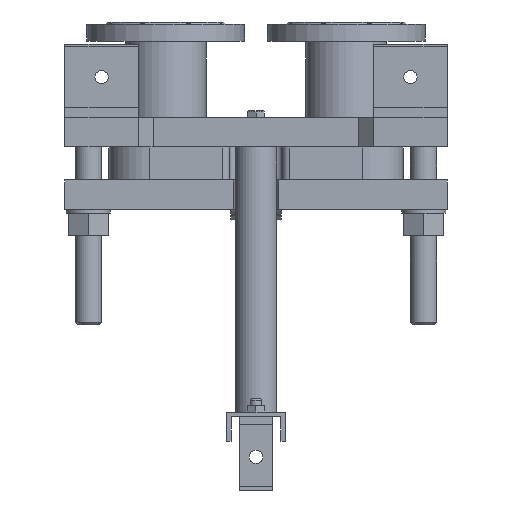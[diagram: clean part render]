
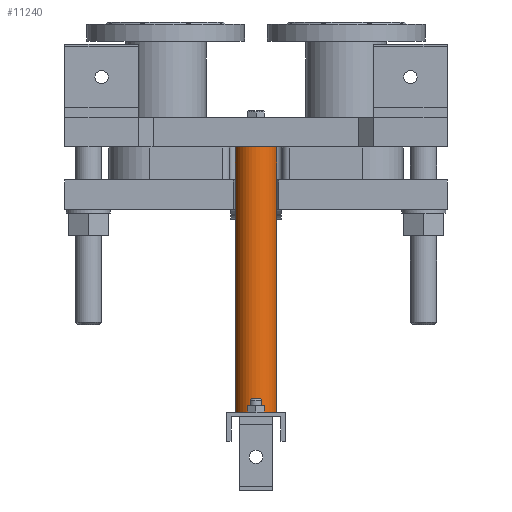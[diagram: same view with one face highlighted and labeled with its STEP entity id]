
A CAD part, front view. The second image highlights one B-rep face of the part: STEP entity #11240.
In plain terms, the highlighted cylindrical face has radius 28.5 mm (diameter 57 mm), a full revolution.
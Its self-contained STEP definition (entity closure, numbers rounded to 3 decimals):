
#781=LINE('',#22043,#1754);
#1754=VECTOR('',#14569,28.5);
#2333=CYLINDRICAL_SURFACE('',#12263,28.5);
#2995=FACE_OUTER_BOUND('',#3777,.T.);
#3777=EDGE_LOOP('',(#9013,#9014,#9015,#9016));
#4462=CIRCLE('',#12264,28.5);
#4463=CIRCLE('',#12265,28.5);
#5286=VERTEX_POINT('',#22040);
#5287=VERTEX_POINT('',#22042);
#6596=EDGE_CURVE('',#5286,#5286,#4462,.T.);
#6597=EDGE_CURVE('',#5286,#5287,#781,.T.);
#6598=EDGE_CURVE('',#5287,#5287,#4463,.T.);
#9013=ORIENTED_EDGE('',*,*,#6596,.F.);
#9014=ORIENTED_EDGE('',*,*,#6597,.T.);
#9015=ORIENTED_EDGE('',*,*,#6598,.T.);
#9016=ORIENTED_EDGE('',*,*,#6597,.F.);
#11240=ADVANCED_FACE('',(#2995),#2333,.T.);
#12263=AXIS2_PLACEMENT_3D('',#22039,#14565,#14566);
#12264=AXIS2_PLACEMENT_3D('',#22041,#14567,#14568);
#12265=AXIS2_PLACEMENT_3D('',#22044,#14570,#14571);
#14565=DIRECTION('center_axis',(0.,0.,
-1.));
#14566=DIRECTION('ref_axis',(-1.,0.,0.));
#14567=DIRECTION('center_axis',(0.,0.,
-1.));
#14568=DIRECTION('ref_axis',(-1.,0.,0.));
#14569=DIRECTION('',(0.,0.,1.));
#14570=DIRECTION('center_axis',(0.,0.,
-1.));
#14571=DIRECTION('ref_axis',(-1.,0.,0.));
#22039=CARTESIAN_POINT('Origin',(0.,215.,0.));
#22040=CARTESIAN_POINT('',(28.5,215.,-360.5));
#22041=CARTESIAN_POINT('Origin',(0.,215.,-360.5));
#22042=CARTESIAN_POINT('',(28.5,215.,0.));
#22043=CARTESIAN_POINT('',(28.5,215.,0.));
#22044=CARTESIAN_POINT('Origin',(0.,215.,0.));
